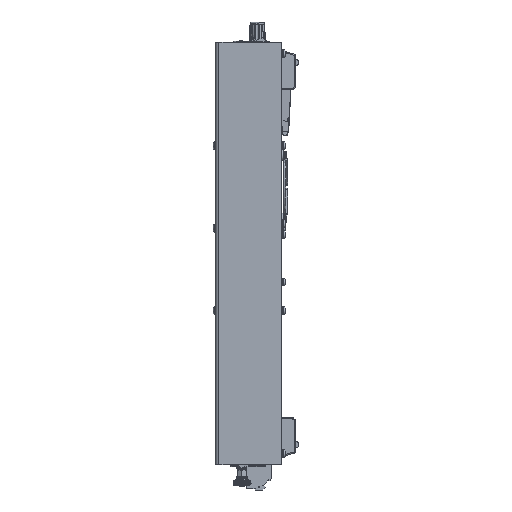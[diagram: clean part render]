
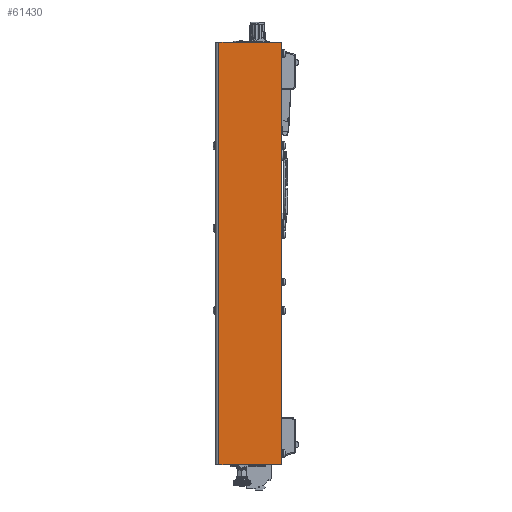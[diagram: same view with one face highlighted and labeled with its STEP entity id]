
A CAD part, left-side view. The second image highlights one B-rep face of the part: STEP entity #61430.
In plain terms, the highlighted planar face has unit normal (-1, 0, 0).
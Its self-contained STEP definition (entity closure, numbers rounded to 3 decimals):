
#3511=LINE('',#90635,#8440);
#3513=LINE('',#90645,#8442);
#3519=LINE('',#90661,#8448);
#3520=LINE('',#90662,#8449);
#8440=VECTOR('',#72352,1.88);
#8442=VECTOR('',#72364,10.);
#8448=VECTOR('',#72378,10.);
#8449=VECTOR('',#72379,10.);
#12792=PLANE('',#65224);
#14979=FACE_OUTER_BOUND('',#18522,.T.);
#18522=EDGE_LOOP('',(#42393,#42394,#42395,#42396));
#26041=VERTEX_POINT('',#90632);
#26042=VERTEX_POINT('',#90634);
#26044=VERTEX_POINT('',#90642);
#26045=VERTEX_POINT('',#90644);
#32217=EDGE_CURVE('',#26041,#26042,#3511,.T.);
#32223=EDGE_CURVE('',#26044,#26045,#3513,.T.);
#32231=EDGE_CURVE('',#26044,#26042,#3519,.T.);
#32232=EDGE_CURVE('',#26045,#26041,#3520,.T.);
#42393=ORIENTED_EDGE('',*,*,#32231,.T.);
#42394=ORIENTED_EDGE('',*,*,#32217,.F.);
#42395=ORIENTED_EDGE('',*,*,#32232,.F.);
#42396=ORIENTED_EDGE('',*,*,#32223,.F.);
#61430=ADVANCED_FACE('',(#14979),#12792,.F.);
#65224=AXIS2_PLACEMENT_3D('',#90660,#72376,#72377);
#72352=DIRECTION('',(0.,1.,0.));
#72364=DIRECTION('',(0.,-1.,0.));
#72376=DIRECTION('center_axis',(1.,0.,0.));
#72377=DIRECTION('ref_axis',(0.,0.,
1.));
#72378=DIRECTION('',(0.,0.,-1.));
#72379=DIRECTION('',(0.,0.,-1.));
#90632=CARTESIAN_POINT('',(-222.,0.,-333.));
#90634=CARTESIAN_POINT('',(-222.,49.,-333.));
#90635=CARTESIAN_POINT('',(-222.,54.906,-333.));
#90642=CARTESIAN_POINT('',(-222.,49.,0.));
#90644=CARTESIAN_POINT('',(-222.,0.,0.));
#90645=CARTESIAN_POINT('',(-222.,49.,0.));
#90660=CARTESIAN_POINT('Origin',(-222.,25.977,-166.5));
#90661=CARTESIAN_POINT('',(-222.,49.,-166.5));
#90662=CARTESIAN_POINT('',(-222.,0.,0.));
